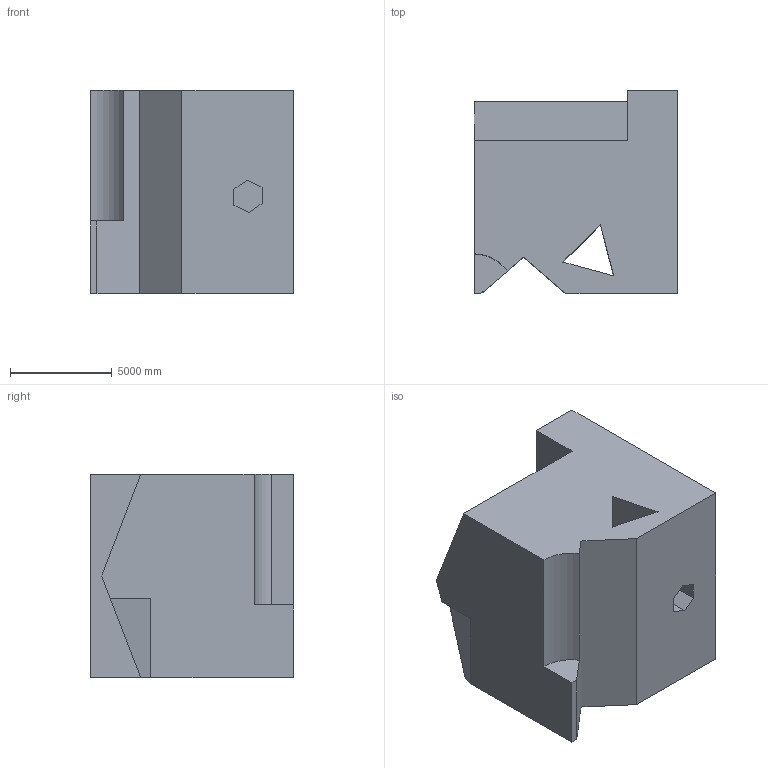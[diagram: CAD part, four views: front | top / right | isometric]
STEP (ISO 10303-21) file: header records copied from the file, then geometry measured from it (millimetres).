
FILE_DESCRIPTION (( 'STEP AP203' ), '1' );
FILE_NAME ('152.STEP', '2022-09-06T15:14:32', ( 'user' ), ( '' ), 'SwSTEP 2.0', 'SolidWorks 2021', '' );
FILE_SCHEMA (( 'CONFIG_CONTROL_DESIGN' ));
Length unit declared in the file: centimetre
Products named in the file (1): 152
Bounding box: 10000 x 10000 x 10000 mm (x, y, z)
Volume: 799533433889.6 mm3; surface area: 648579263 mm2
Topology: 1 solids, 1 shells, 26 faces, 69 edges, 46 vertices
Faces by surface type: plane 25, cylinder 1
Entity records: 876 total; most frequent: CARTESIAN_POINT 142, ORIENTED_EDGE 138, DIRECTION 125, EDGE_CURVE 69, VECTOR 67, LINE 67, VERTEX_POINT 46, AXIS2_PLACEMENT_3D 29
